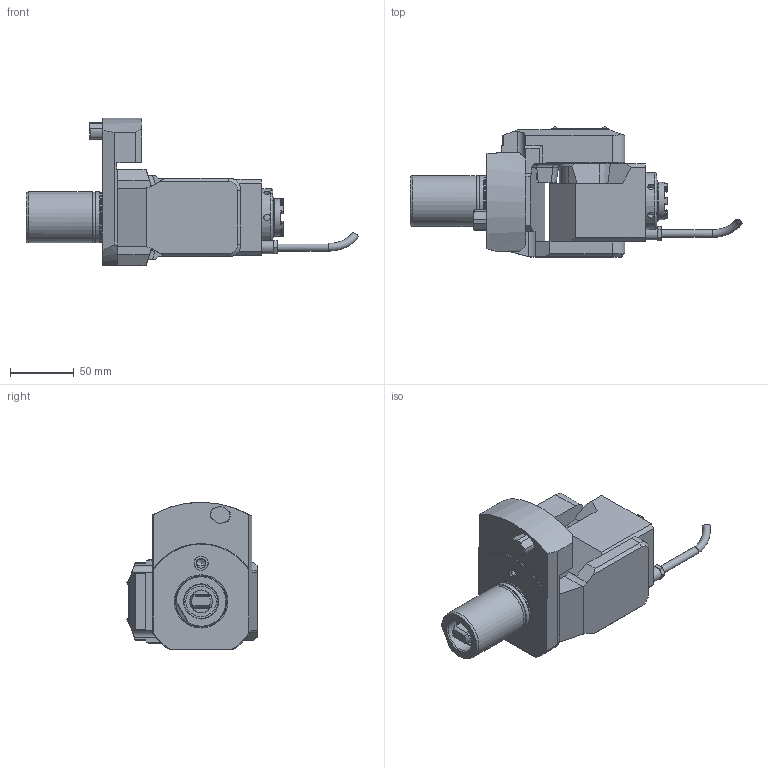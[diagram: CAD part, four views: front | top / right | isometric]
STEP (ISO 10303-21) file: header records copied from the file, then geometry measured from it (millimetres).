
FILE_DESCRIPTION(/* description */ (''),/* implementation_level */ '2;1');
FILE_NAME(/* name */ '191270',/* time_stamp */ '2020-02-25T15:40:49+01:00',/* author */ (''),/* organization */ (''),/* preprocessor_version */ 'ST-DEVELOPER v16.5',/* originating_system */ 'HiCAD 2017 2201.0 Build 268',/* authorisation */ '');
FILE_SCHEMA (('AUTOMOTIVE_DESIGN { 1 0 10303 214 1 1 1 1 }'));
Products named in the file (8): Root; Teil; ABCDEFGHIJKLMNOPQRSTUVWXYZ[\]^_`ABCDEFGHIJKLMNOP뱐趰ǝ; DIN 13-M6; DIN 13-M32x1,5; DIN 76-M6; 0°
Assembly tree (7 placements, depth 3):
  Root
    Teil
      ABCDEFGHIJKLMNOPQRSTUVWXYZ[\]^_`ABCDEFGHIJKLMNOP뱐趰ǝ
      DIN 13-M6
      DIN 13-M32x1,5
      DIN 76-M6
      DIN 76-M6
      0°
Bounding box: 261.04 x 102.3 x 116 mm (x, y, z)
Volume: 771773.7 mm3; surface area: 111214.7 mm2
Topology: 11 solids, 26 shells, 847 faces, 2187 edges, 1441 vertices
Faces by surface type: plane 475, cylinder 246, cone 52, bspline 44, torus 25, sphere 5
Full cylindrical faces by diameter (mm): 2 x4, 2.2 x4, 3 x4, 4 x1, 4.5 x1, 4.773 x8, 5 x4, 5.1 x6, 6 x13, 6.8 x1, 7.65 x1, 8.773 x2, 10 x1, 11 x1, 11.01 x1, 11.1 x1, 18 x1, 18.2 x1, 19 x1, 21 x2, 22 x1, 23.4 x1, 24 x1, 26 x1, 26.5 x1, 27.6 x1, 29.5 x1, 30 x1, 30.16 x2, 32 x2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
Entity records: 64825 total; most frequent: CARTESIAN_POINT 22144, PRESENTATION_STYLE_ASSIGNMENT 4492, OVER_RIDING_STYLED_ITEM 4486, COLOUR_RGB 4002, DRAUGHTING_PRE_DEFINED_CURVE_FONT 3992, CURVE_STYLE 3992, ORIENTED_EDGE 3992, DIRECTION 3867
